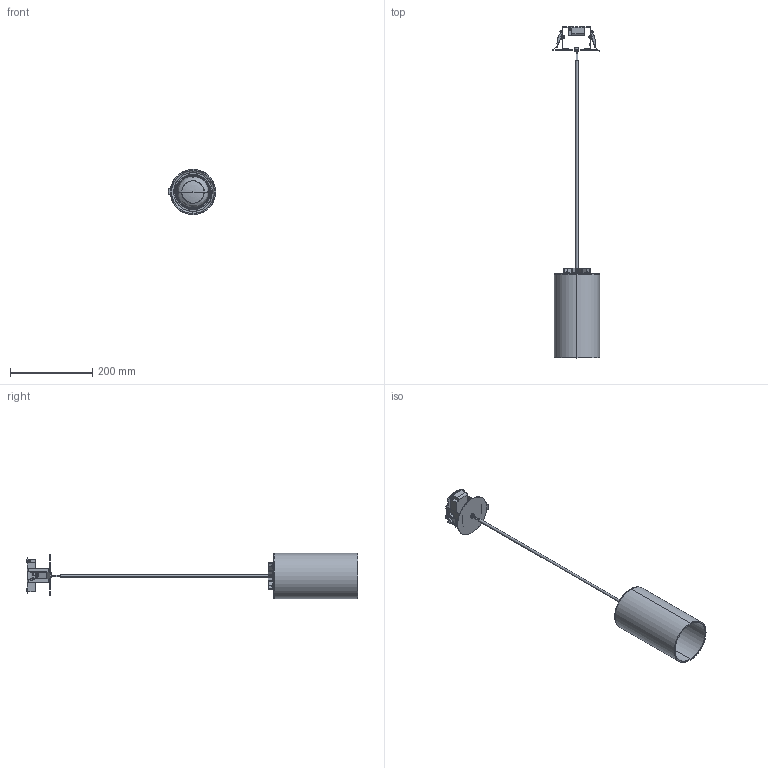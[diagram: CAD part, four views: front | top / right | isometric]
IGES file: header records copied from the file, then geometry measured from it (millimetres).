
Start section: SolidWorks IGES file using analytic representation for surfaces
Global section: file name: C:\Users\berta.gumma\OneDrive - santa &cole\Desktop\Cirio simple empotrable.IGS; native system: SolidWorks 2021; preprocessor: SolidWorks 2021; author: berta.gumma; date: 230831.125948; units: millimetre
Bounding box: 114.77 x 807.22 x 110 mm (x, y, z)
Surface area: 259813.8 mm2 (no closed solid volume)
Topology: 0 solids, 0 shells, 1642 faces, 18333 edges, 18321 vertices
Faces by surface type: bspline 1049, revolution 593
